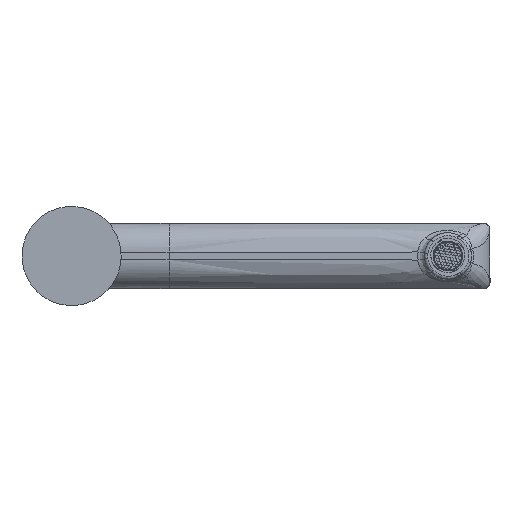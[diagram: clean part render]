
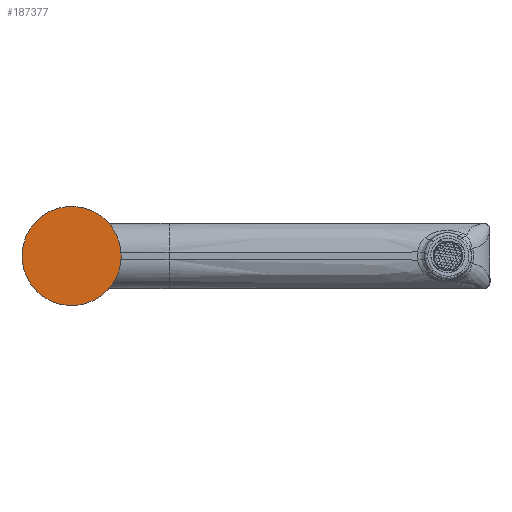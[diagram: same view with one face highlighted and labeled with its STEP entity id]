
A CAD part, front view. The second image highlights one B-rep face of the part: STEP entity #187377.
In plain terms, the highlighted planar face has unit normal (0, -1, 0).
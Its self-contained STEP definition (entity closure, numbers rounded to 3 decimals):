
#3053 = EDGE_LOOP ( 'NONE', ( #116628, #159301 ) ) ;
#10814 = AXIS2_PLACEMENT_3D ( 'NONE', #67046, #176200, #144563 ) ;
#10976 = DIRECTION ( 'NONE',  ( -0.046, 0., -0.999 ) ) ;
#16512 = DIRECTION ( 'NONE',  ( 0., -1., 0. ) ) ;
#20556 = CARTESIAN_POINT ( 'NONE',  ( -1.147, -113., -24.974 ) ) ;
#32470 = AXIS2_PLACEMENT_3D ( 'NONE', #197643, #74103, #10976 ) ;
#32880 = CARTESIAN_POINT ( 'NONE',  ( 0.003, -113., 0. ) ) ;
#67046 = CARTESIAN_POINT ( 'NONE',  ( 0.003, -113., 0. ) ) ;
#70897 = CARTESIAN_POINT ( 'NONE',  ( 1.153, -113., 24.974 ) ) ;
#74103 = DIRECTION ( 'NONE',  ( 0., -1., 0. ) ) ;
#80352 = EDGE_CURVE ( 'NONE', #133219, #89734, #123569, .T. ) ;
#89734 = VERTEX_POINT ( 'NONE', #20556 ) ;
#94608 = FACE_OUTER_BOUND ( 'NONE', #3053, .T. ) ;
#102098 = CIRCLE ( 'NONE', #128100, 25. ) ;
#116628 = ORIENTED_EDGE ( 'NONE', *, *, #149238, .T. ) ;
#123569 = CIRCLE ( 'NONE', #32470, 25. ) ;
#128100 = AXIS2_PLACEMENT_3D ( 'NONE', #32880, #16512, #188877 ) ;
#133219 = VERTEX_POINT ( 'NONE', #70897 ) ;
#144563 = DIRECTION ( 'NONE',  ( 0., 0., -1. ) ) ;
#149238 = EDGE_CURVE ( 'NONE', #89734, #133219, #102098, .T. ) ;
#159301 = ORIENTED_EDGE ( 'NONE', *, *, #80352, .T. ) ;
#176200 = DIRECTION ( 'NONE',  ( 0., -1., 0. ) ) ;
#187377 = ADVANCED_FACE ( 'NONE', ( #94608 ), #199881, .T. ) ;
#188877 = DIRECTION ( 'NONE',  ( -0.046, 0., -0.999 ) ) ;
#197643 = CARTESIAN_POINT ( 'NONE',  ( 0.003, -113., 0. ) ) ;
#199881 = PLANE ( 'NONE',  #10814 ) ;
